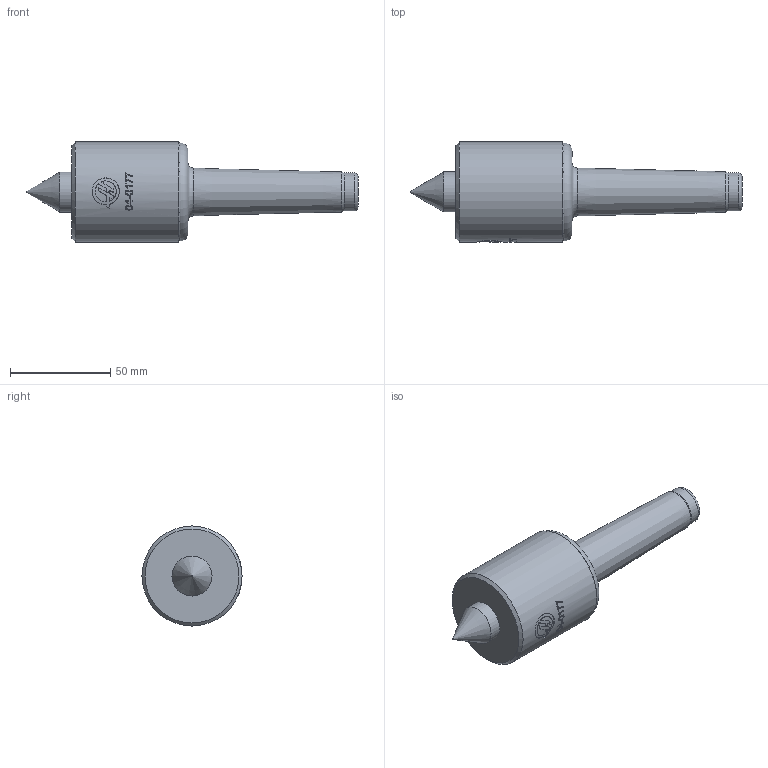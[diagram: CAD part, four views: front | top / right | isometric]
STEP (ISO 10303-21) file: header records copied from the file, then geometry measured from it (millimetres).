
FILE_DESCRIPTION(/* description */ (''),/* implementation_level */ '2;1');
FILE_NAME(/* name */ '04-0177 mt-3 live center.step',/* time_stamp */ '2023-03-07T09:45:26-08:00',/* author */ (''),/* organization */ (''),/* preprocessor_version */ 'ST-DEVELOPER v19.2',/* originating_system */ 'Autodesk Translation Framework v11.17.0.187',/* authorisation */ '');
FILE_SCHEMA (('AUTOMOTIVE_DESIGN { 1 0 10303 214 3 1 1 }'));
Length unit declared in the file: inch
Products named in the file (1): 04-0177 mt-3 live center
Bounding box: 166 x 50.01 x 50.01 mm (x, y, z)
Volume: 148793.8 mm3; surface area: 18879.4 mm2
Topology: 1 solids, 1 shells, 258 faces, 719 edges, 478 vertices
Faces by surface type: bspline 194, plane 40, cylinder 16, cone 5, torus 3
Full cylindrical faces by diameter (mm): 19 x1, 20 x1, 50.008 x1
Entity records: 11298 total; most frequent: CARTESIAN_POINT 5902, ORIENTED_EDGE 1438, EDGE_CURVE 719, DIRECTION 524, VERTEX_POINT 478, B_SPLINE_CURVE_WITH_KNOTS 388, EDGE_LOOP 273, LINE 268
